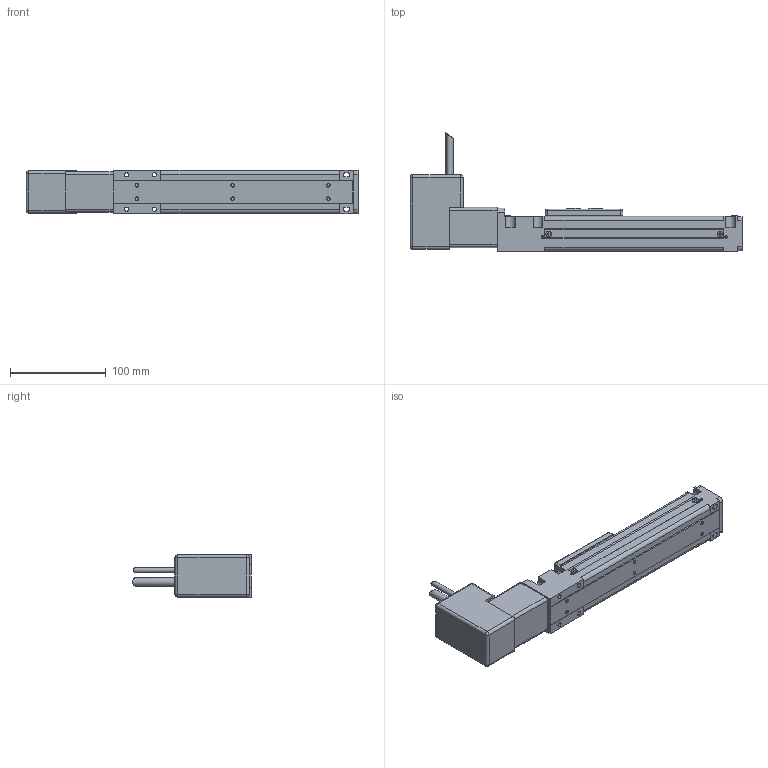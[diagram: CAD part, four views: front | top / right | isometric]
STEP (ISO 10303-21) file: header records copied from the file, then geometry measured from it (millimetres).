
FILE_DESCRIPTION(/* description */ ('Alibre Inc.'),/* implementation_level */ '2;1');
FILE_NAME(/* name */ 'export0',/* time_stamp */ '2010-03-31T14:52:26-04:00',/* author */ (''),/* organization */ (''),/* preprocessor_version */ 'ST-DEVELOPER v10',/* originating_system */ 'Alibre',/* authorisation */ '');
FILE_SCHEMA (('CONFIG_CONTROL_DESIGN'));
Length unit declared in the file: millimetre
Products named in the file (4): 1; 2; ID_1
Bounding box: 347 x 124.17 x 45 mm (x, y, z)
Volume: 426709.9 mm3; surface area: 138381.1 mm2
Topology: 3 solids, 3 shells, 685 faces, 1787 edges, 1108 vertices
Faces by surface type: plane 430, cylinder 151, cone 90, torus 8, sphere 6
Full cylindrical faces by diameter (mm): 2.459 x3, 2.5 x1, 5 x1, 5.6 x1, 8.5 x1, 22 x1
Entity records: 20518 total; most frequent: CARTESIAN_POINT 3694, ORIENTED_EDGE 3484, DIRECTION 3057, EDGE_CURVE 1742, VECTOR 1317, LINE 1317, VERTEX_POINT 1105, AXIS2_PLACEMENT_3D 1088
